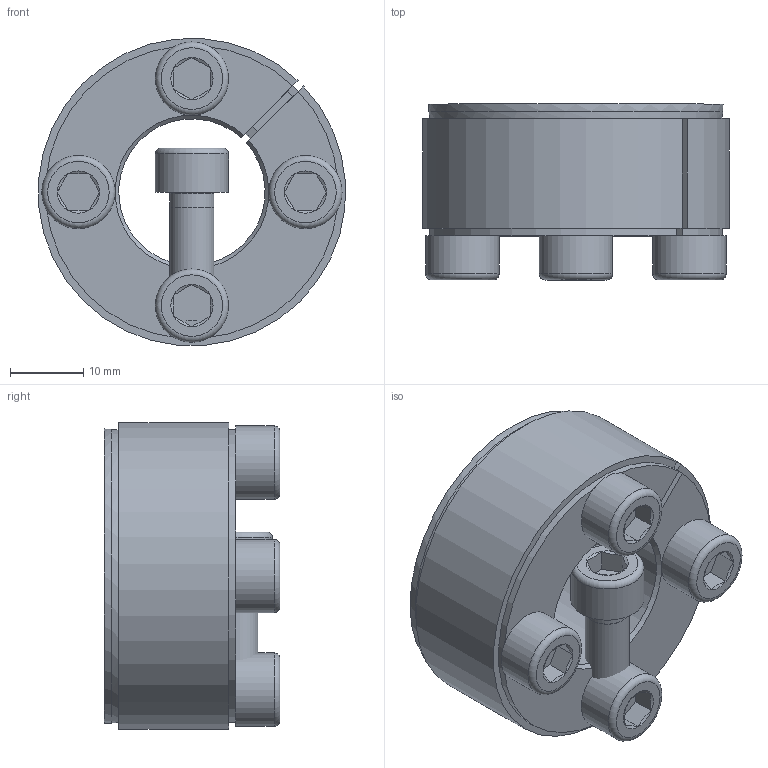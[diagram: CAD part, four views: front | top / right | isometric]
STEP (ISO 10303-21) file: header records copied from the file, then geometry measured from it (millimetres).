
FILE_DESCRIPTION( ( 'Unknown' ), '1' );
FILE_NAME( 'C:/Dokumente und Einstellungen/Sven/Desktop/homepage/cad - homepage/KBS52/KBS 52 - 20 x 42.stp', 'Unknown', ( 'Unknown' ), ( 'Unknown' ), 'XStep 1.0', 'Unknown', ' ' );
FILE_SCHEMA( ( 'automotive_design' ) );
Length unit declared in the file: millimetre
Products named in the file (3): Assem1; KBS 52 - 20 x 42; ISO EN DIN 4762 M6x18
Bounding box: 41.88 x 24 x 41.88 mm (x, y, z)
Volume: 37900.2 mm3; surface area: 17487.3 mm2
Topology: 7 solids, 7 shells, 173 faces, 349 edges, 208 vertices
Faces by surface type: plane 86, cone 41, cylinder 36, torus 10
Full cylindrical faces by diameter (mm): 5 x5, 6 x18, 10 x5, 40.175 x2
Entity records: 1549 total; most frequent: CARTESIAN_POINT 259, DIRECTION 231, ORIENTED_EDGE 180, AXIS2_PLACEMENT_3D 94, EDGE_CURVE 90, EDGE_LOOP 76, VERTEX_POINT 62, FACE_OUTER_BOUND 60
